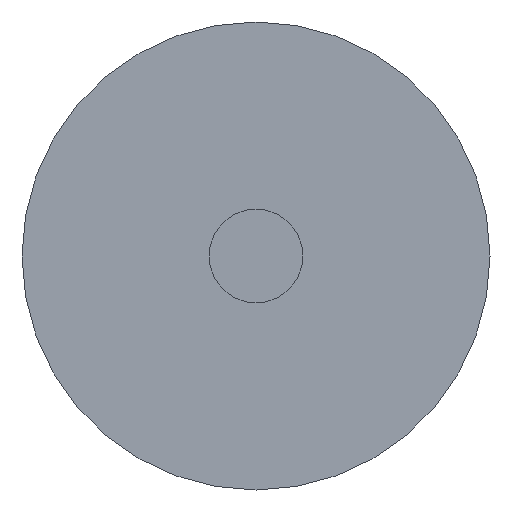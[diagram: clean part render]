
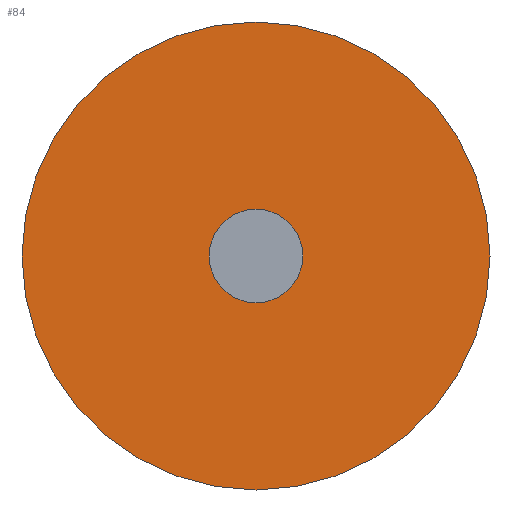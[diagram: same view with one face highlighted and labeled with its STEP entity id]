
A CAD part, front view. The second image highlights one B-rep face of the part: STEP entity #84.
In plain terms, the highlighted planar face has unit normal (0, -1, 0).
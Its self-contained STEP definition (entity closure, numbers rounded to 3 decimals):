
#84 = ADVANCED_FACE( '', ( #234, #235 ), #236, .F. );
#234 = FACE_BOUND( '', #519, .T. );
#235 = FACE_OUTER_BOUND( '', #520, .T. );
#236 = PLANE( '', #521 );
#519 = EDGE_LOOP( '', ( #860 ) );
#520 = EDGE_LOOP( '', ( #861 ) );
#521 = AXIS2_PLACEMENT_3D( '', #862, #863, #864 );
#860 = ORIENTED_EDGE( '', *, *, #2013, .F. );
#861 = ORIENTED_EDGE( '', *, *, #2014, .T. );
#862 = CARTESIAN_POINT( '', ( 25., 0., 0. ) );
#863 = DIRECTION( '', ( 0., 1., 0. ) );
#864 = DIRECTION( '', ( 0., 0., 1. ) );
#2013 = EDGE_CURVE( '', #2435, #2435, #2436, .T. );
#2014 = EDGE_CURVE( '', #2437, #2437, #2438, .T. );
#2435 = VERTEX_POINT( '', #3208 );
#2436 = CIRCLE( '', #3209, 5. );
#2437 = VERTEX_POINT( '', #3210 );
#2438 = CIRCLE( '', #3211, 25. );
#3208 = CARTESIAN_POINT( '', ( 0., 0., -5. ) );
#3209 = AXIS2_PLACEMENT_3D( '', #4303, #4304, #4305 );
#3210 = CARTESIAN_POINT( '', ( 0., 0., -25. ) );
#3211 = AXIS2_PLACEMENT_3D( '', #4306, #4307, #4308 );
#4303 = CARTESIAN_POINT( '', ( 0., 0., 0. ) );
#4304 = DIRECTION( '', ( 0., -1., 0. ) );
#4305 = DIRECTION( '', ( 0., 0., -1. ) );
#4306 = CARTESIAN_POINT( '', ( 0., 0., 0. ) );
#4307 = DIRECTION( '', ( 0., -1., 0. ) );
#4308 = DIRECTION( '', ( 0., 0., -1. ) );
